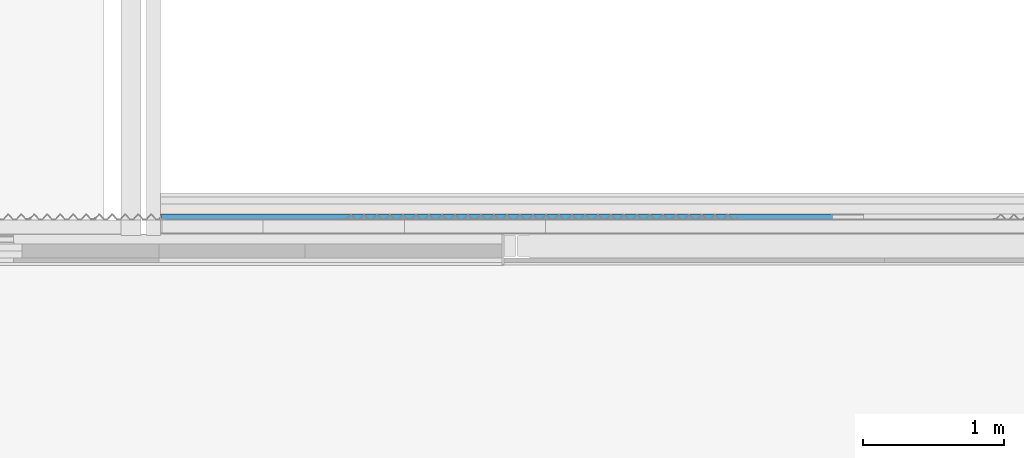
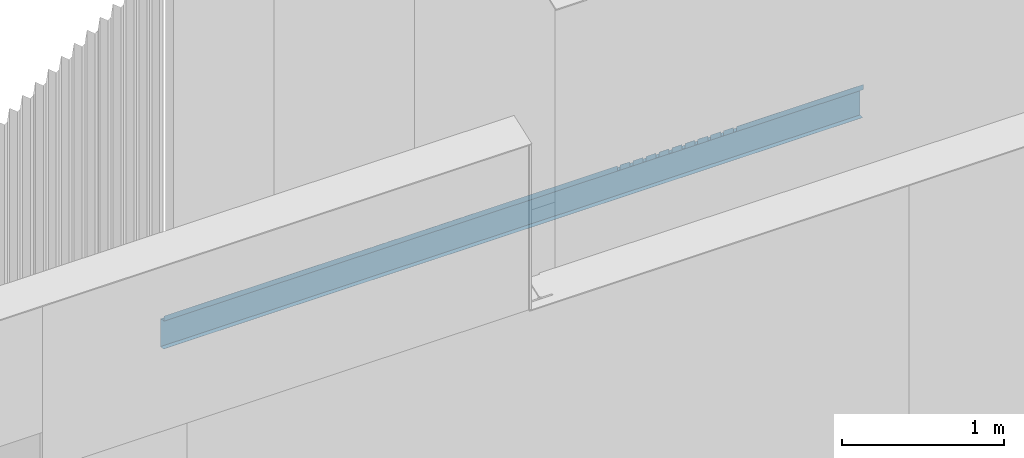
# One storey, part 46 of 338: 1 wall.
"""IFC2X3 building model written with IfcOpenShell, lengths in millimetres."""

from ifc_helpers import new_model, entity, si_unit, converted_unit, derived_unit, money_unit, direction, frame, origin_with_axes, place, context, subcontext, project, spatial, faceted_brep, material, type_object, element, save


model = new_model("IFC2X3")

# Units and contexts
model_context = context("Model", 3, precision=0.01, world=origin_with_axes(), true_north=direction((0.0, 1.0)))
plan_context = context("Plan", 3, precision=0.01, world=origin_with_axes(), true_north=direction((0.0, 1.0)))
body_context = subcontext(model_context, "Body", "Model", "MODEL_VIEW")
ifc_project = project(units=[si_unit("LENGTHUNIT", "METRE", prefix="MILLI"), si_unit("AREAUNIT", "SQUARE_METRE"), si_unit("VOLUMEUNIT", "CUBIC_METRE"), converted_unit("PLANEANGLEUNIT", "DEGREE", entity("IfcPlaneAngleMeasure", 0.0174532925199), si_unit("PLANEANGLEUNIT", "RADIAN"), dimensions=[0, 0, 0, 0, 0, 0, 0]), money_unit("EUR"), converted_unit("TIMEUNIT", "Year", entity("IfcTimeMeasure", 31556926.0), si_unit("TIMEUNIT", "SECOND"), dimensions=[0, 0, 1, 0, 0, 0, 0]), si_unit("MASSUNIT", "GRAM", prefix="KILO"), si_unit("THERMODYNAMICTEMPERATUREUNIT", "DEGREE_CELSIUS"), si_unit("LUMINOUSINTENSITYUNIT", "LUMEN"), si_unit("ENERGYUNIT", "JOULE", prefix="MEGA"), derived_unit("THERMALCONDUCTANCEUNIT", [(si_unit("POWERUNIT", "WATT"), 1), (si_unit("LENGTHUNIT", "METRE"), -1), (si_unit("THERMODYNAMICTEMPERATUREUNIT", "KELVIN"), -1)]), derived_unit("SPECIFICHEATCAPACITYUNIT", [(si_unit("ENERGYUNIT", "JOULE"), 1), (si_unit("MASSUNIT", "GRAM", prefix="KILO"), -1), (si_unit("THERMODYNAMICTEMPERATUREUNIT", "KELVIN"), -1)]), derived_unit("MASSDENSITYUNIT", [(si_unit("MASSUNIT", "GRAM", prefix="KILO"), 1), (si_unit("VOLUMEUNIT", "CUBIC_METRE"), -1)])], contexts=[model_context, plan_context])

# Site, building, storey
site_placement = place(None, origin_with_axes())
site = spatial("IfcSite", under=ifc_project, at=site_placement, Name="Fortuinstraat Woensdrecht", CompositionType="ELEMENT")
building_placement = place(site_placement, origin_with_axes())
building = spatial("IfcBuilding", under=site, at=building_placement, Name="IKC Fortuna", CompositionType="ELEMENT")
storey_placement = place(building_placement, origin_with_axes())
storey = spatial("IfcBuildingStorey", under=building, at=storey_placement, Name="00 begane grond", CompositionType="ELEMENT", Elevation=0.0)

# Wall
ifc_material = material(Name="Metaal - Aluminium")
wall_type = type_object("IfcWallType", Name="41 Plank h 42 x 255", PredefinedType="NOTDEFINED")
wall_placement = place(storey_placement, frame((49588.4257084, 35396.2966283, 3030.0), z_axis=(0.0, 0.0, 1.0), x_axis=(-0.999999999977, -6.74351796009e-06, 0.0)))
element("IfcWall", 1, at=wall_placement, inside=storey, type_object=wall_type, material=ifc_material, Name="21_Wand_sandwichplaat", context=body_context, shape_type="Brep", body=[
    faceted_brep([(4974.99707762, -230.033548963, -228.143091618), (4972.99707762, -230.033535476, -228.143091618), (4972.99721946, -209.0, -228.143091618), (0.0, -209.0, -228.143091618), (0.0, -241.0, -228.143091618), (4974.99862349, -241.0, -228.143091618), (4972.99707762, -230.033535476, -229.143091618), (4974.99707762, -230.033548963, -229.143091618), (4972.99721946, -209.0, -229.143091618), (0.0, -209.0, -229.143091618), (0.0, -242.0, -229.143091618), (0.0, -242.0, -19.1430916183), (0.0, -201.0, -11.9136854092), (0.0, -201.0, 25.8569083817), (0.0, -200.0, 25.8569083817), (0.0, -200.0, -12.7527850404), (0.0, -241.0, -19.9821912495), (4974.99862349, -241.0, -19.9821912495), (4974.99707762, -230.033548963, -18.048510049), (4974.99707762, -230.033548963, -17.033083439), (4974.99862349, -242.0, -19.1430916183), (4974.99862349, -242.0, -229.143091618), (4972.99707762, -230.033535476, -17.033081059), (4972.99726644, -202.033535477, -12.0959255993), (4944.99726644, -202.033346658, -12.0958923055), (4944.99727341, -201.0, -11.9136854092), (4944.99727341, -201.0, 25.8569083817), (3591.76919892, -201.0, 25.8569083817), (3591.76919892, -201.0, -10.0000056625), (3569.76171075, -201.0, -10.0000056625), (3569.76171058, -201.0, 25.8569083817), (3499.76984423, -201.0, 25.8569083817), (3499.76983053, -201.0, -10.0000056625), (3477.76107941, -201.0, -10.0000056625), (3477.76107964, -201.0, 25.8569083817), (3407.77047544, -201.0, 25.8569083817), (3407.77047544, -201.0, -10.0000056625), (3385.76043476, -201.0, -10.0000056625), (3385.76043459, -201.0, 25.8569083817), (3315.77112075, -201.0, 25.8569083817), (3315.77110705, -201.0, -10.0000056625), (3293.75978971, -201.0, -10.0000056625), (3293.75978954, -201.0, 25.8569083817), (3223.77175196, -201.0, 25.8569083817), (3223.77175196, -201.0, -10.0000056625), (3200.03768222, -201.0, -10.0000056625), (3200.03768167, -201.0, 25.8569083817), (3131.7723877, -201.0, 25.8569083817), (3131.7723877, -201.0, -10.0000056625), (3109.75852008, -201.0, -10.0000056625), (3109.75852122, -201.0, 25.8569083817), (3039.77302582, -201.0, 25.8569083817), (3039.77302582, -201.0, -10.0000056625), (3017.75788195, -201.0, -10.0000056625), (3017.75788308, -201.0, 25.8569083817), (2947.77366395, -201.0, 25.8569083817), (2947.77366395, -201.0, -10.0000056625), (2925.75724381, -201.0, -10.0000056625), (2925.75724495, -201.0, 25.8569083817), (2855.77430207, -201.0, 25.8569083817), (2855.77430207, -201.0, -10.0000056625), (2833.75660568, -201.0, -10.0000056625), (2833.75660681, -201.0, 25.8569083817), (2763.77494019, -201.0, 25.8569083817), (2763.77494019, -201.0, -10.0000056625), (2740.03448494, -201.0, -10.0000056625), (2740.03448608, -201.0, 25.8569083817), (1751.78196138, -201.0, 25.8569083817), (1751.78196138, -201.0, -10.0000056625), (1729.74894804, -201.0, -10.0000056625), (1729.74894786, -201.0, 25.8569083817), (1659.78260669, -201.0, 25.8569083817), (1659.78259299, -201.0, -10.0000056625), (1637.74831669, -201.0, -10.0000056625), (1637.74831691, -201.0, 25.8569083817), (1567.7832379, -201.0, 25.8569083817), (1567.7832379, -201.0, -10.0000056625), (1545.74767204, -201.0, -10.0000056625), (1545.74767187, -201.0, 25.8569083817), (1475.78388321, -201.0, 25.8569083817), (1475.78386951, -201.0, -10.0000056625), (1453.74702699, -201.0, -10.0000056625), (1453.74702682, -201.0, 25.8569083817), (1383.78451442, -201.0, 25.8569083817), (1383.78451442, -201.0, -10.0000056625), (1360.02491951, -201.0, -10.0000056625), (1360.02491895, -201.0, 25.8569083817), (1291.78515016, -201.0, 25.8569083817), (1291.78515016, -201.0, -10.0000056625), (1269.74575736, -201.0, -10.0000056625), (1269.74575851, -201.0, 25.8569083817), (1199.78578828, -201.0, 25.8569083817), (1199.78578828, -201.0, -10.0000056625), (1177.74511923, -201.0, -10.0000056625), (1177.74512038, -201.0, 25.8569083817), (1107.78642641, -201.0, 25.8569083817), (1107.78642641, -201.0, -10.0000056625), (1085.74448109, -201.0, -10.0000056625), (1085.74448224, -201.0, 25.8569083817), (1015.78706453, -201.0, 25.8569083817), (1015.78706453, -201.0, -10.0000056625), (993.743842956, -201.0, -10.0000056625), (993.743844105, -201.0, 25.8569083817), (923.787702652, -201.0, 25.8569083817), (923.787702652, -201.0, -10.0000056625), (900.021722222, -201.0, -10.0000056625), (900.021723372, -201.0, 25.8569083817), (901.044066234, -200.006067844, 25.8569083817), (1361.0440723, -200.009169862, 25.8569083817), (1361.0440723, -200.009169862, -10.0000056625), (1382.7655394, -200.009316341, -10.0000056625), (1382.7655394, -200.009316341, 25.8569083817), (1454.76553009, -200.009801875, 25.8569083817), (1454.76553009, -200.009801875, -10.0000056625), (1474.76553221, -200.009936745, -10.0000056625), (1474.76553221, -200.009936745, 25.8569083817), (1546.765537, -200.010422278, 25.8569083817), (1546.765537, -200.010422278, -10.0000056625), (1566.76553912, -200.010557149, -10.0000056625), (1566.76553912, -200.010557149, 25.8569083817), (1638.76554392, -200.011042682, 25.8569083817), (1638.76554392, -200.011042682, -10.0000056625), (1658.76553193, -200.011177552, -10.0000056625), (1658.76553193, -200.011177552, 25.8569083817), (1730.76553673, -200.011663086, 25.8569083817), (1730.76553673, -200.011663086, -10.0000056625), (1750.76553884, -200.011797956, -10.0000056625), (901.044066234, -200.006067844, -10.0000056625), (922.765536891, -200.006214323, -10.0000056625), (922.765536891, -200.006214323, 25.8569083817), (994.765536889, -200.006699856, 25.8569083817), (994.765536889, -200.006699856, -10.0000056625), (1014.76553689, -200.006834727, -10.0000056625), (1014.76553689, -200.006834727, 25.8569083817), (1086.76553689, -200.00732026, 25.8569083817), (1086.76553689, -200.00732026, -10.0000056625), (1106.76553689, -200.00745513, -10.0000056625), (1106.76553689, -200.00745513, 25.8569083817), (1178.76553688, -200.007940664, 25.8569083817), (1178.76553688, -200.007940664, -10.0000056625), (1198.76553688, -200.008075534, -10.0000056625), (1198.76553688, -200.008075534, 25.8569083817), (1270.76553688, -200.008561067, 25.8569083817), (1270.76553688, -200.008561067, -10.0000056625), (1290.76553688, -200.008695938, -10.0000056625), (1290.76553688, -200.008695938, 25.8569083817), (4972.99726644, -202.033535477, -13.1113522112), (4972.99707762, -230.033535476, -18.0485076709), (4974.99862349, -200.0, -12.7527850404), (4974.99727993, -200.033548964, -12.7587006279), (4944.99727993, -200.033346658, -12.758664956), (4944.99726644, -202.033346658, -13.1113189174), (4944.99727993, -200.033346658, 25.8569083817), (4974.99727993, -200.033548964, 25.8569083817), (4974.99862349, -200.0, 25.8569083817), (1750.76553884, -200.011797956, 25.8569083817), (2741.04406619, -200.018475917, 25.8569083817), (2762.76553685, -200.018622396, 25.8569083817), (2834.76553685, -200.019107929, 25.8569083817), (2854.76553685, -200.0192428, 25.8569083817), (2926.76553685, -200.019728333, 25.8569083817), (2946.76553684, -200.019863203, 25.8569083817), (3018.76553684, -200.020348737, 25.8569083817), (3038.76553684, -200.020483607, 25.8569083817), (3110.76553684, -200.02096914, 25.8569083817), (3130.76553684, -200.021104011, 25.8569083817), (3201.04407226, -200.021577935, 25.8569083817), (3222.76553936, -200.021724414, 25.8569083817), (3294.76553005, -200.022209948, 25.8569083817), (3314.76553217, -200.022344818, 25.8569083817), (3386.76553696, -200.022830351, 25.8569083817), (3406.76553908, -200.022965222, 25.8569083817), (3478.76554387, -200.023450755, 25.8569083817), (3498.76553189, -200.023585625, 25.8569083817), (3570.76553668, -200.024071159, 25.8569083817), (3590.7655388, -200.024206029, 25.8569083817), (3590.7655388, -200.024206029, -10.0000056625), (3570.76553668, -200.024071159, -10.0000056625), (3498.76553189, -200.023585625, -10.0000056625), (3478.76554387, -200.023450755, -10.0000056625), (3406.76553908, -200.022965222, -10.0000056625), (3386.76553696, -200.022830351, -10.0000056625), (3314.76553217, -200.022344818, -10.0000056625), (3294.76553005, -200.022209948, -10.0000056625), (3222.76553936, -200.021724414, -10.0000056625), (3201.04407226, -200.021577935, -10.0000056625), (3130.76553684, -200.021104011, -10.0000056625), (3110.76553684, -200.02096914, -10.0000056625), (3038.76553684, -200.020483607, -10.0000056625), (3018.76553684, -200.020348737, -10.0000056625), (2946.76553684, -200.019863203, -10.0000056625), (2926.76553685, -200.019728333, -10.0000056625), (2854.76553685, -200.0192428, -10.0000056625), (2834.76553685, -200.019107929, -10.0000056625), (2762.76553685, -200.018622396, -10.0000056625), (2741.04406619, -200.018475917, -10.0000056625)], [[[0, 1, 2, 3, 4, 5]], [[6, 1, 0, 7]], [[8, 2, 1, 6]], [[3, 2, 8, 9]], [[4, 3, 9, 10, 11, 12, 13, 14, 15, 16]], [[17, 5, 4, 16]], [[17, 18, 19, 20, 21, 7, 0, 5]], [[8, 6, 7, 21, 10, 9]], [[21, 20, 11, 10]], [[19, 22, 23, 24, 25, 12, 11, 20]], [[12, 25, 26, 27, 28, 29, 30, 31, 32, 33, 34, 35, 36, 37, 38, 39, 40, 41, 42, 43, 44, 45, 46, 47, 48, 49, 50, 51, 52, 53, 54, 55, 56, 57, 58, 59, 60, 61, 62, 63, 64, 65, 66, 67, 68, 69, 70, 71, 72, 73, 74, 75, 76, 77, 78, 79, 80, 81, 82, 83, 84, 85, 86, 87, 88, 89, 90, 91, 92, 93, 94, 95, 96, 97, 98, 99, 100, 101, 102, 103, 104, 105, 106, 13]], [[107, 14, 13, 106]], [[108, 109, 110, 111, 112, 113, 114, 115, 116, 117, 118, 119, 120, 121, 122, 123, 124, 125, 126, 15, 14, 107, 127, 128, 129, 130, 131, 132, 133, 134, 135, 136, 137, 138, 139, 140, 141, 142, 143, 144, 145]], [[146, 147, 18, 17, 16, 15, 148, 149, 150, 151]], [[147, 22, 19, 18]], [[146, 23, 22, 147]], [[151, 24, 23, 146]], [[26, 25, 24, 151, 150, 152]], [[26, 152, 153, 154, 155, 67, 66, 156, 157, 63, 62, 158, 159, 59, 58, 160, 161, 55, 54, 162, 163, 51, 50, 164, 165, 47, 46, 166, 167, 43, 42, 168, 169, 39, 38, 170, 171, 35, 34, 172, 173, 31, 30, 174, 175, 27]], [[27, 175, 176, 28]], [[29, 28, 176, 177]], [[174, 30, 29, 177]], [[31, 173, 178, 32]], [[33, 32, 178, 179]], [[172, 34, 33, 179]], [[35, 171, 180, 36]], [[37, 36, 180, 181]], [[170, 38, 37, 181]], [[39, 169, 182, 40]], [[41, 40, 182, 183]], [[168, 42, 41, 183]], [[43, 167, 184, 44]], [[45, 44, 184, 185]], [[166, 46, 45, 185]], [[48, 47, 165, 186]], [[187, 49, 48, 186]], [[187, 164, 50, 49]], [[52, 51, 163, 188]], [[189, 53, 52, 188]], [[189, 162, 54, 53]], [[56, 55, 161, 190]], [[191, 57, 56, 190]], [[191, 160, 58, 57]], [[60, 59, 159, 192]], [[193, 61, 60, 192]], [[193, 158, 62, 61]], [[64, 63, 157, 194]], [[195, 65, 64, 194]], [[195, 156, 66, 65]], [[126, 68, 67, 155]], [[126, 125, 69, 68]], [[69, 125, 124, 70]], [[70, 124, 123, 71]], [[122, 72, 71, 123]], [[122, 121, 73, 72]], [[73, 121, 120, 74]], [[74, 120, 119, 75]], [[118, 76, 75, 119]], [[118, 117, 77, 76]], [[77, 117, 116, 78]], [[78, 116, 115, 79]], [[114, 80, 79, 115]], [[114, 113, 81, 80]], [[81, 113, 112, 82]], [[82, 112, 111, 83]], [[110, 84, 83, 111]], [[110, 109, 85, 84]], [[85, 109, 108, 86]], [[145, 87, 86, 108]], [[145, 144, 88, 87]], [[88, 144, 143, 89]], [[90, 89, 143, 142]], [[91, 90, 142, 141]], [[141, 140, 92, 91]], [[92, 140, 139, 93]], [[94, 93, 139, 138]], [[95, 94, 138, 137]], [[137, 136, 96, 95]], [[96, 136, 135, 97]], [[98, 97, 135, 134]], [[99, 98, 134, 133]], [[133, 132, 100, 99]], [[100, 132, 131, 101]], [[102, 101, 131, 130]], [[103, 102, 130, 129]], [[129, 128, 104, 103]], [[104, 128, 127, 105]], [[106, 105, 127, 107]], [[148, 15, 126]], [[154, 153, 149, 148]], [[149, 153, 152, 150]], [[154, 148, 126, 155]], [[194, 157, 156, 195]], [[192, 159, 158, 193]], [[190, 161, 160, 191]], [[188, 163, 162, 189]], [[186, 165, 164, 187]], [[167, 166, 185, 184]], [[169, 168, 183, 182]], [[171, 170, 181, 180]], [[173, 172, 179, 178]], [[175, 174, 177, 176]]]),
])

save(model, "model.ifc")
